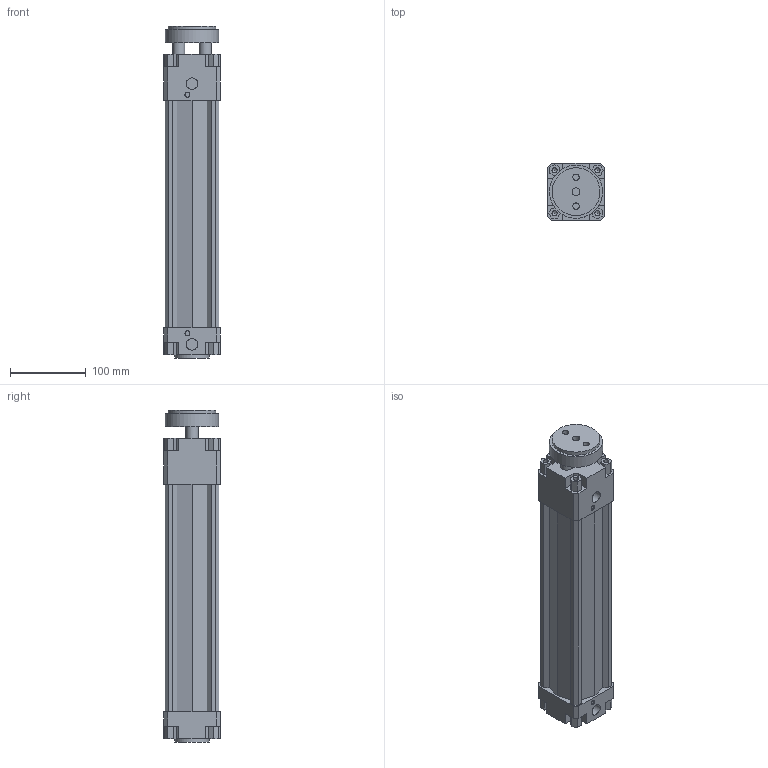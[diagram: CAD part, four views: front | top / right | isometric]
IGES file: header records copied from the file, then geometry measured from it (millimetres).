
Global section: file name: 134#_063_0250_01; native system: Autodesk Inventor 2014; preprocessor: unknown; author: A. Manieri; date: 20161006.165127; units: millimetre
Bounding box: 75 x 75 x 437 mm (x, y, z)
Volume: 1221359.7 mm3; surface area: 273803.7 mm2
Topology: 2 solids, 2 shells, 180 faces, 491 edges, 335 vertices
Faces by surface type: bspline 180
